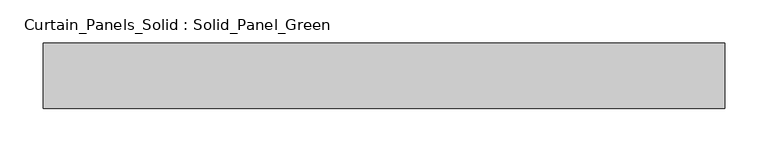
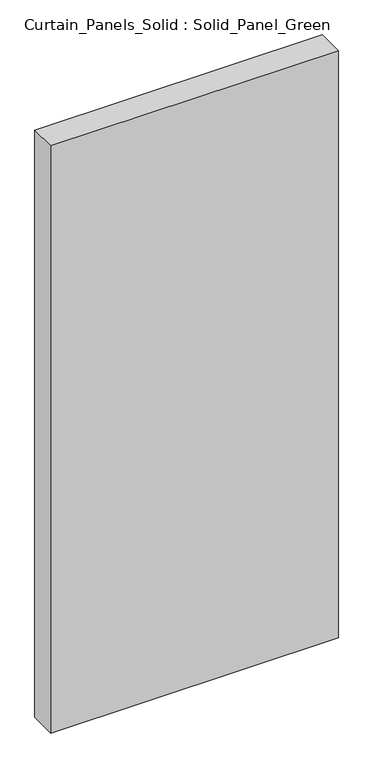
"""IFC4 building model written with IfcOpenShell, lengths in millimetres: plate geometry, Curtain_Panels_Solid : Solid_Panel_Green."""

from ifc_helpers import new_model, si_unit, origin, origin_with_axes, place, context, project, spatial, polyline, outline, extrude, source, transform, mapped, element, save


def curtain_panels_solid_solid_panel_green_fcc19b96(model_context):
    return source(origin(), model_context, "Body", "SweptSolid", [
        extrude(outline(polyline([(391.6666668, -25.0), (-391.6666668, -25.0), (-391.6666668, 50.0), (391.6666668, 50.0), (391.6666668, -25.0)])), origin_with_axes(), (0.0, 0.0, 1.0), 1690.0),
    ])


if __name__ == "__main__":
    model = new_model("IFC4")
    model_context = context("Model", 3, world=origin())
    ifc_project = project(units=[si_unit("LENGTHUNIT", "METRE", prefix="MILLI")], contexts=[model_context])
    site = spatial("IfcSite", under=ifc_project)
    building = spatial("IfcBuilding", under=site)
    placement = place(None, origin())
    curtain_panels_solid_solid_panel_green_shape = curtain_panels_solid_solid_panel_green_fcc19b96(model_context)
    element("IfcPlate", 1, ObjectType="Curtain_Panels_Solid : Solid_Panel_Green", at=placement, inside=building, context=model_context, shape_type="MappedRepresentation", body=[
        mapped(curtain_panels_solid_solid_panel_green_shape, transform((0.0, 0.0, 0.0), x_axis=(1.0, 0.0, 0.0), y_axis=(0.0, 1.0, 0.0), z_axis=(0.0, 0.0, 1.0))),
    ])
    save(model, "model.ifc")
